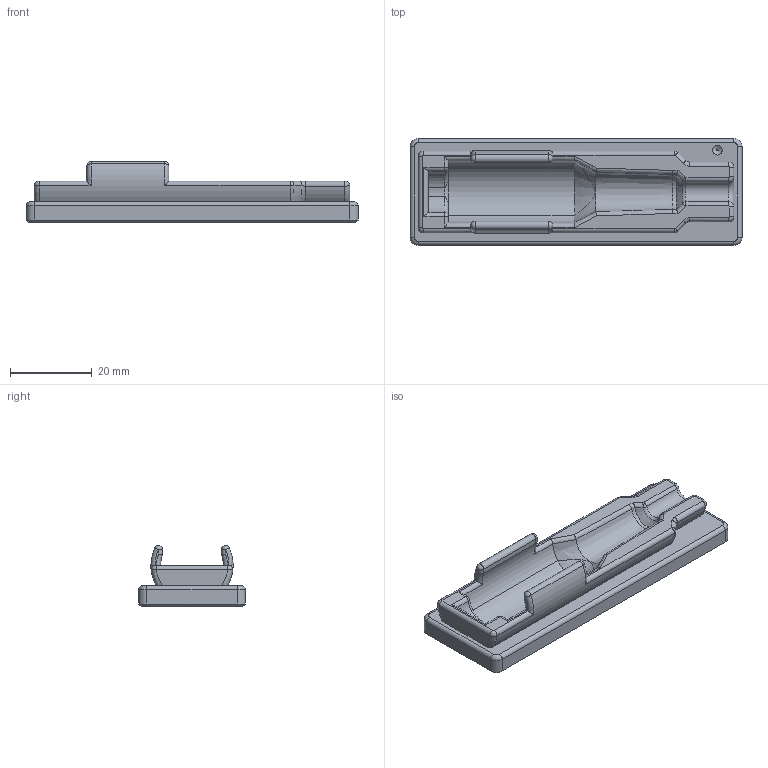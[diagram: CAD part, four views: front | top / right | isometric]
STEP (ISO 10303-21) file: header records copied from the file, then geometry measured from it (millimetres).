
FILE_DESCRIPTION(('Open CASCADE Model'),'2;1');
FILE_NAME('Open CASCADE Shape Model','2026-10-12T20:43:53',('Author'),( 'Open CASCADE'),'Open CASCADE STEP processor 8.0','build123d', 'Unknown');
FILE_SCHEMA(('AUTOMOTIVE_DESIGN { 1 0 10303 214 1 1 1 1 }'));
Length unit declared in the file: millimetre
Products named in the file (1): COMPOUND
Bounding box: 81.09 x 26.1 x 14.88 mm (x, y, z)
Volume: 13808.4 mm3; surface area: 7150.2 mm2
Topology: 1 solids, 1 shells, 139 faces, 337 edges, 195 vertices
Faces by surface type: cylinder 48, plane 27, torus 25, bspline 24, cone 11, sphere 4
Entity records: 14381 total; most frequent: CARTESIAN_POINT 8423, DIRECTION 934, ORIENTED_EDGE 660, PCURVE 660, DEFINITIONAL_REPRESENTATION 660, LINE 453, VECTOR 453, B_SPLINE_CURVE_WITH_KNOTS 345
